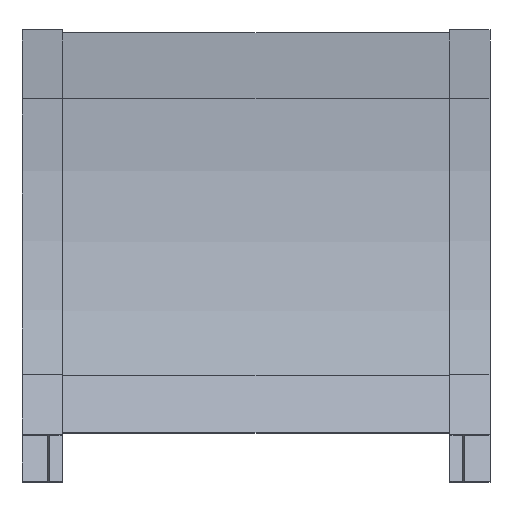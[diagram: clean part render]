
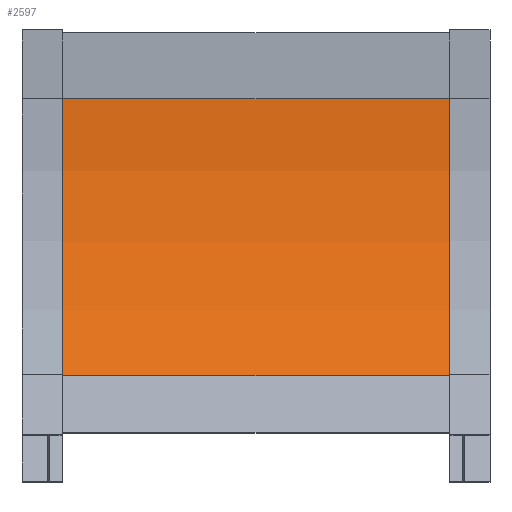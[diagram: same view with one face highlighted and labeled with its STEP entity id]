
A CAD part, front view. The second image highlights one B-rep face of the part: STEP entity #2597.
In plain terms, the highlighted cylindrical face has radius 612.14 mm (diameter 1224.28 mm), a partial arc.
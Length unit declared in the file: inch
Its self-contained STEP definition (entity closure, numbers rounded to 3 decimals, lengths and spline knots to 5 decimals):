
#2431=DIRECTION('',(-1.,0.,0.));
#2432=VECTOR('',#2431,17.875);
#2433=CARTESIAN_POINT('',(8.9375,0.,0.));
#2434=LINE('',#2433,#2432);
#2435=CARTESIAN_POINT('',(8.9375,24.1,0.));
#2436=DIRECTION('',(-1.,0.,0.));
#2437=DIRECTION('',(0.,-1.,0.));
#2438=AXIS2_PLACEMENT_3D('',#2435,#2436,#2437);
#2461=CARTESIAN_POINT('',(-8.9375,24.1,0.));
#2462=DIRECTION('',(-1.,0.,0.));
#2463=DIRECTION('',(0.,-1.,0.));
#2464=AXIS2_PLACEMENT_3D('',#2461,#2462,#2463);
#2487=DIRECTION('',(-1.,0.,0.));
#2488=VECTOR('',#2487,17.875);
#2489=CARTESIAN_POINT('',(8.9375,3.22879,12.05));
#2490=LINE('',#2489,#2488);
#2535=CARTESIAN_POINT('',(8.9375,0.,0.));
#2537=VERTEX_POINT('',#2535);
#2541=CARTESIAN_POINT('',(-8.9375,0.,0.));
#2542=VERTEX_POINT('',#2541);
#2551=CARTESIAN_POINT('',(8.9375,3.22879,12.05));
#2552=VERTEX_POINT('',#2551);
#2555=CARTESIAN_POINT('',(-8.9375,3.22879,12.05));
#2556=VERTEX_POINT('',#2555);
#2583=CARTESIAN_POINT('',(8.9375,24.1,0.));
#2584=DIRECTION('',(-1.,0.,0.));
#2585=DIRECTION('',(0.,0.,1.));
#2586=AXIS2_PLACEMENT_3D('',#2583,#2584,#2585);
#2587=CYLINDRICAL_SURFACE('',#2586,24.1);
#2589=ORIENTED_EDGE('',*,*,#2588,.T.);
#2591=ORIENTED_EDGE('',*,*,#2590,.T.);
#2593=ORIENTED_EDGE('',*,*,#2592,.F.);
#2594=ORIENTED_EDGE('',*,*,#2572,.F.);
#2595=EDGE_LOOP('',(#2589,#2591,#2593,#2594));
#2596=FACE_OUTER_BOUND('',#2595,.F.);
#2597=ADVANCED_FACE('',(#2596),#2587,.F.);
#2439=CIRCLE('',#2438,24.1);
#2465=CIRCLE('',#2464,24.1);
#2572=EDGE_CURVE('',#2537,#2542,#2434,.T.);
#2588=EDGE_CURVE('',#2537,#2552,#2439,.T.);
#2590=EDGE_CURVE('',#2552,#2556,#2490,.T.);
#2592=EDGE_CURVE('',#2542,#2556,#2465,.T.);
